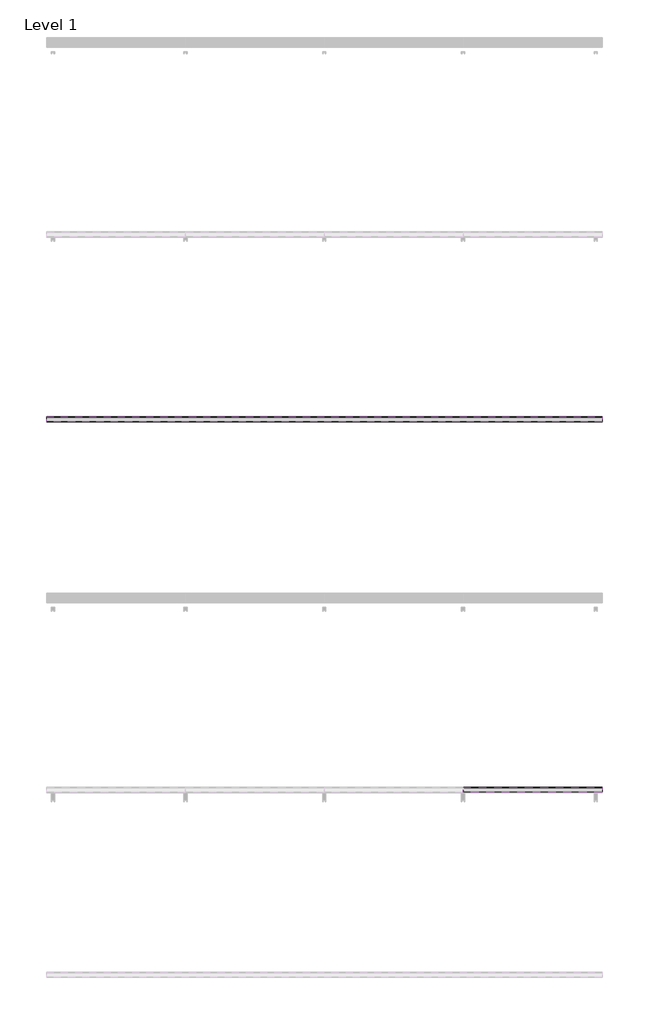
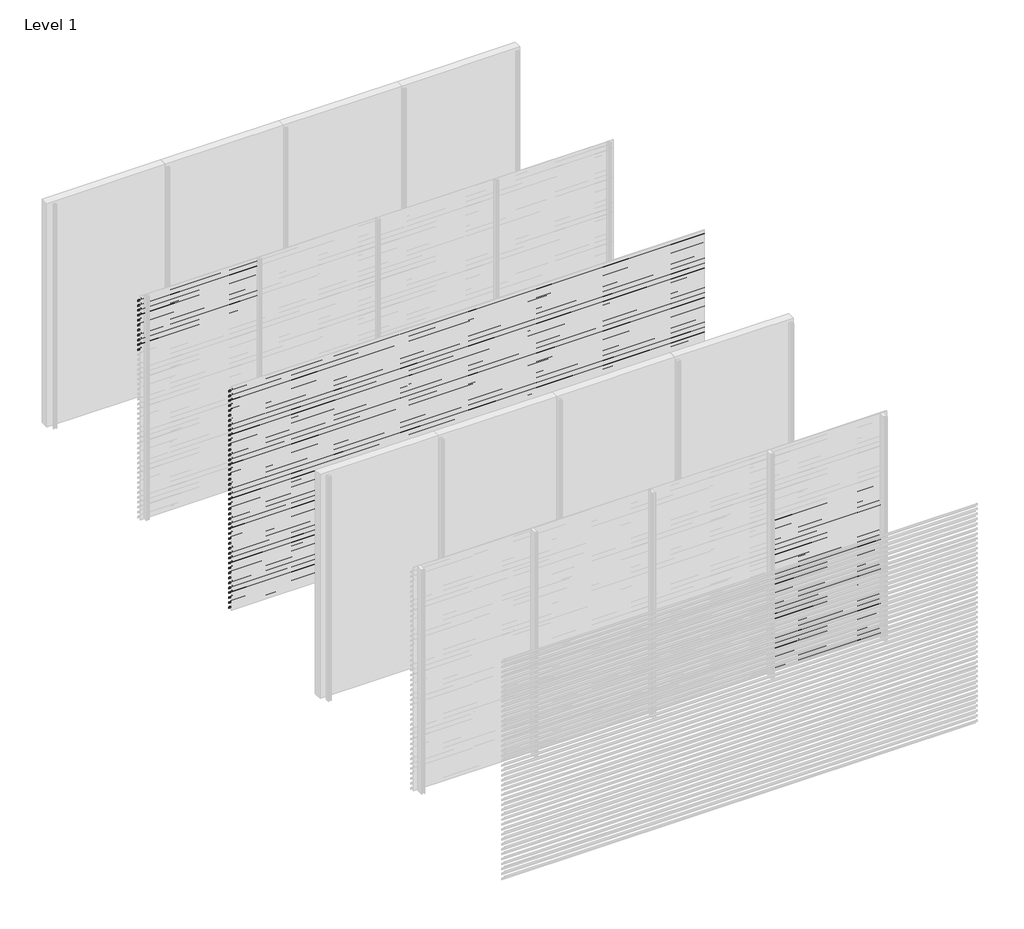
# One storey, part 18 of 25: 87 proxies.
"""IFC4 building model written with IfcOpenShell, lengths in millimetres."""

from ifc_helpers import new_model, si_unit, frame, origin, place, context, project, spatial, polyline, outline, extrude, element, save

model = new_model("IFC4")

# Units and contexts
model_context = context("Model", 3, world=origin())
ifc_project = project(units=[si_unit("LENGTHUNIT", "METRE", prefix="MILLI")], contexts=[model_context])

# Site, building, storey
site = spatial("IfcSite", under=ifc_project)
building = spatial("IfcBuilding", under=site)
storey = spatial("IfcBuildingStorey", under=building, Name="Level 1", Elevation=0.0)

# Proxies
placement = place(None, origin())
element("IfcBuildingElementProxy", 1, Name="Wall Sweeps", at=placement, inside=storey, context=model_context, shape_type="SweptSolid", body=[
    extrude(outline(polyline([(-11943.0, 2913.5), (-11943.0, 2893.5), (-11944.25, 2894.2216933), (-11944.25, 2912.7872415), (-11998.0, 2950.3158044), (-11998.0, 2970.0), (-11996.75, 2970.0), (-11996.75, 2951.0285629), (-11943.0, 2913.5)])), frame((0.0, 0.0, 0.0), z_axis=(1.0, 0.0, 0.0), x_axis=(0.0, 1.0, 0.0)), (0.0, 0.0, 1.0), 1500.0),
])
element("IfcBuildingElementProxy", 2, Name="Wall Sweeps", at=placement, inside=storey, context=model_context, shape_type="SweptSolid", body=[
    extrude(outline(polyline([(-11943.0, 2847.5), (-11943.0, 2827.5), (-11944.25, 2828.2216933), (-11944.25, 2846.7872415), (-11998.0, 2884.3158044), (-11998.0, 2904.0), (-11996.75, 2904.0), (-11996.75, 2885.0285629), (-11943.0, 2847.5)])), frame((0.0, 0.0, 0.0), z_axis=(1.0, 0.0, 0.0), x_axis=(0.0, 1.0, 0.0)), (0.0, 0.0, 1.0), 1500.0),
])
element("IfcBuildingElementProxy", 3, Name="Wall Sweeps", at=placement, inside=storey, context=model_context, shape_type="SweptSolid", body=[
    extrude(outline(polyline([(-11943.0, 2781.5), (-11943.0, 2761.5), (-11944.25, 2762.2216933), (-11944.25, 2780.7872415), (-11998.0, 2818.3158044), (-11998.0, 2838.0), (-11996.75, 2838.0), (-11996.75, 2819.0285629), (-11943.0, 2781.5)])), frame((0.0, 0.0, 0.0), z_axis=(1.0, 0.0, 0.0), x_axis=(0.0, 1.0, 0.0)), (0.0, 0.0, 1.0), 1500.0),
])
element("IfcBuildingElementProxy", 4, Name="Wall Sweeps", at=placement, inside=storey, context=model_context, shape_type="SweptSolid", body=[
    extrude(outline(polyline([(-11943.0, 2715.5), (-11943.0, 2695.5), (-11944.25, 2696.2216933), (-11944.25, 2714.7872415), (-11998.0, 2752.3158044), (-11998.0, 2772.0), (-11996.75, 2772.0), (-11996.75, 2753.0285629), (-11943.0, 2715.5)])), frame((0.0, 0.0, 0.0), z_axis=(1.0, 0.0, 0.0), x_axis=(0.0, 1.0, 0.0)), (0.0, 0.0, 1.0), 1500.0),
])
element("IfcBuildingElementProxy", 5, Name="Wall Sweeps", at=placement, inside=storey, context=model_context, shape_type="SweptSolid", body=[
    extrude(outline(polyline([(-11943.0, 2649.5), (-11943.0, 2629.5), (-11944.25, 2630.2216933), (-11944.25, 2648.7872415), (-11998.0, 2686.3158044), (-11998.0, 2706.0), (-11996.75, 2706.0), (-11996.75, 2687.0285629), (-11943.0, 2649.5)])), frame((0.0, 0.0, 0.0), z_axis=(1.0, 0.0, 0.0), x_axis=(0.0, 1.0, 0.0)), (0.0, 0.0, 1.0), 1500.0),
])
element("IfcBuildingElementProxy", 6, Name="Wall Sweeps", at=placement, inside=storey, context=model_context, shape_type="SweptSolid", body=[
    extrude(outline(polyline([(-11943.0, 2583.5), (-11943.0, 2563.5), (-11944.25, 2564.2216933), (-11944.25, 2582.7872415), (-11998.0, 2620.3158044), (-11998.0, 2640.0), (-11996.75, 2640.0), (-11996.75, 2621.0285629), (-11943.0, 2583.5)])), frame((0.0, 0.0, 0.0), z_axis=(1.0, 0.0, 0.0), x_axis=(0.0, 1.0, 0.0)), (0.0, 0.0, 1.0), 1500.0),
])
element("IfcBuildingElementProxy", 7, Name="Wall Sweeps", at=placement, inside=storey, context=model_context, shape_type="SweptSolid", body=[
    extrude(outline(polyline([(-11943.0, 2517.5), (-11943.0, 2497.5), (-11944.25, 2498.2216933), (-11944.25, 2516.7872415), (-11998.0, 2554.3158044), (-11998.0, 2574.0), (-11996.75, 2574.0), (-11996.75, 2555.0285629), (-11943.0, 2517.5)])), frame((0.0, 0.0, 0.0), z_axis=(1.0, 0.0, 0.0), x_axis=(0.0, 1.0, 0.0)), (0.0, 0.0, 1.0), 1500.0),
])
element("IfcBuildingElementProxy", 8, Name="Wall Sweeps", at=placement, inside=storey, context=model_context, shape_type="SweptSolid", body=[
    extrude(outline(polyline([(-11943.0, 2451.5), (-11943.0, 2431.5), (-11944.25, 2432.2216933), (-11944.25, 2450.7872415), (-11998.0, 2488.3158044), (-11998.0, 2508.0), (-11996.75, 2508.0), (-11996.75, 2489.0285629), (-11943.0, 2451.5)])), frame((0.0, 0.0, 0.0), z_axis=(1.0, 0.0, 0.0), x_axis=(0.0, 1.0, 0.0)), (0.0, 0.0, 1.0), 1500.0),
])
element("IfcBuildingElementProxy", 9, Name="Wall Sweeps", at=placement, inside=storey, context=model_context, shape_type="SweptSolid", body=[
    extrude(outline(polyline([(-11943.0, 2385.5), (-11943.0, 2365.5), (-11944.25, 2366.2216933), (-11944.25, 2384.7872415), (-11998.0, 2422.3158044), (-11998.0, 2442.0), (-11996.75, 2442.0), (-11996.75, 2423.0285629), (-11943.0, 2385.5)])), frame((0.0, 0.0, 0.0), z_axis=(1.0, 0.0, 0.0), x_axis=(0.0, 1.0, 0.0)), (0.0, 0.0, 1.0), 1500.0),
])
element("IfcBuildingElementProxy", 10, Name="Wall Sweeps", at=placement, inside=storey, context=model_context, shape_type="SweptSolid", body=[
    extrude(outline(polyline([(-11943.0, 2319.5), (-11943.0, 2299.5), (-11944.25, 2300.2216933), (-11944.25, 2318.7872415), (-11998.0, 2356.3158044), (-11998.0, 2376.0), (-11996.75, 2376.0), (-11996.75, 2357.0285629), (-11943.0, 2319.5)])), frame((0.0, 0.0, 0.0), z_axis=(1.0, 0.0, 0.0), x_axis=(0.0, 1.0, 0.0)), (0.0, 0.0, 1.0), 1500.0),
])
element("IfcBuildingElementProxy", 11, Name="Wall Sweeps", at=placement, inside=storey, context=model_context, shape_type="SweptSolid", body=[
    extrude(outline(polyline([(-11943.0, 2253.5), (-11943.0, 2233.5), (-11944.25, 2234.2216933), (-11944.25, 2252.7872415), (-11998.0, 2290.3158044), (-11998.0, 2310.0), (-11996.75, 2310.0), (-11996.75, 2291.0285629), (-11943.0, 2253.5)])), frame((0.0, 0.0, 0.0), z_axis=(1.0, 0.0, 0.0), x_axis=(0.0, 1.0, 0.0)), (0.0, 0.0, 1.0), 1500.0),
])
element("IfcBuildingElementProxy", 12, Name="Wall Sweeps", at=placement, inside=storey, context=model_context, shape_type="SweptSolid", body=[
    extrude(outline(polyline([(-13943.0, 2913.5), (-13943.0, 2893.5), (-13944.25, 2894.2216933), (-13944.25, 2912.7872415), (-13998.0, 2950.3158044), (-13998.0, 2970.0), (-13996.75, 2970.0), (-13996.75, 2951.0285629), (-13943.0, 2913.5)])), frame((0.0, 0.0, 0.0), z_axis=(1.0, 0.0, 0.0), x_axis=(0.0, 1.0, 0.0)), (0.0, 0.0, 1.0), 6000.0),
])
element("IfcBuildingElementProxy", 13, Name="Wall Sweeps", at=placement, inside=storey, context=model_context, shape_type="SweptSolid", body=[
    extrude(outline(polyline([(-13943.0, 2847.5), (-13943.0, 2827.5), (-13944.25, 2828.2216933), (-13944.25, 2846.7872415), (-13998.0, 2884.3158044), (-13998.0, 2904.0), (-13996.75, 2904.0), (-13996.75, 2885.0285629), (-13943.0, 2847.5)])), frame((0.0, 0.0, 0.0), z_axis=(1.0, 0.0, 0.0), x_axis=(0.0, 1.0, 0.0)), (0.0, 0.0, 1.0), 6000.0),
])
element("IfcBuildingElementProxy", 14, Name="Wall Sweeps", at=placement, inside=storey, context=model_context, shape_type="SweptSolid", body=[
    extrude(outline(polyline([(-13943.0, 2781.5), (-13943.0, 2761.5), (-13944.25, 2762.2216933), (-13944.25, 2780.7872415), (-13998.0, 2818.3158044), (-13998.0, 2838.0), (-13996.75, 2838.0), (-13996.75, 2819.0285629), (-13943.0, 2781.5)])), frame((0.0, 0.0, 0.0), z_axis=(1.0, 0.0, 0.0), x_axis=(0.0, 1.0, 0.0)), (0.0, 0.0, 1.0), 6000.0),
])
element("IfcBuildingElementProxy", 15, Name="Wall Sweeps", at=placement, inside=storey, context=model_context, shape_type="SweptSolid", body=[
    extrude(outline(polyline([(-13943.0, 2715.5), (-13943.0, 2695.5), (-13944.25, 2696.2216933), (-13944.25, 2714.7872415), (-13998.0, 2752.3158044), (-13998.0, 2772.0), (-13996.75, 2772.0), (-13996.75, 2753.0285629), (-13943.0, 2715.5)])), frame((0.0, 0.0, 0.0), z_axis=(1.0, 0.0, 0.0), x_axis=(0.0, 1.0, 0.0)), (0.0, 0.0, 1.0), 6000.0),
])
element("IfcBuildingElementProxy", 16, Name="Wall Sweeps", at=placement, inside=storey, context=model_context, shape_type="SweptSolid", body=[
    extrude(outline(polyline([(-13943.0, 2649.5), (-13943.0, 2629.5), (-13944.25, 2630.2216933), (-13944.25, 2648.7872415), (-13998.0, 2686.3158044), (-13998.0, 2706.0), (-13996.75, 2706.0), (-13996.75, 2687.0285629), (-13943.0, 2649.5)])), frame((0.0, 0.0, 0.0), z_axis=(1.0, 0.0, 0.0), x_axis=(0.0, 1.0, 0.0)), (0.0, 0.0, 1.0), 6000.0),
])
element("IfcBuildingElementProxy", 17, Name="Wall Sweeps", at=placement, inside=storey, context=model_context, shape_type="SweptSolid", body=[
    extrude(outline(polyline([(-13943.0, 2583.5), (-13943.0, 2563.5), (-13944.25, 2564.2216933), (-13944.25, 2582.7872415), (-13998.0, 2620.3158044), (-13998.0, 2640.0), (-13996.75, 2640.0), (-13996.75, 2621.0285629), (-13943.0, 2583.5)])), frame((0.0, 0.0, 0.0), z_axis=(1.0, 0.0, 0.0), x_axis=(0.0, 1.0, 0.0)), (0.0, 0.0, 1.0), 6000.0),
])
element("IfcBuildingElementProxy", 18, Name="Wall Sweeps", at=placement, inside=storey, context=model_context, shape_type="SweptSolid", body=[
    extrude(outline(polyline([(-13943.0, 2517.5), (-13943.0, 2497.5), (-13944.25, 2498.2216933), (-13944.25, 2516.7872415), (-13998.0, 2554.3158044), (-13998.0, 2574.0), (-13996.75, 2574.0), (-13996.75, 2555.0285629), (-13943.0, 2517.5)])), frame((0.0, 0.0, 0.0), z_axis=(1.0, 0.0, 0.0), x_axis=(0.0, 1.0, 0.0)), (0.0, 0.0, 1.0), 6000.0),
])
element("IfcBuildingElementProxy", 19, Name="Wall Sweeps", at=placement, inside=storey, context=model_context, shape_type="SweptSolid", body=[
    extrude(outline(polyline([(-13943.0, 2451.5), (-13943.0, 2431.5), (-13944.25, 2432.2216933), (-13944.25, 2450.7872415), (-13998.0, 2488.3158044), (-13998.0, 2508.0), (-13996.75, 2508.0), (-13996.75, 2489.0285629), (-13943.0, 2451.5)])), frame((0.0, 0.0, 0.0), z_axis=(1.0, 0.0, 0.0), x_axis=(0.0, 1.0, 0.0)), (0.0, 0.0, 1.0), 6000.0),
])
element("IfcBuildingElementProxy", 20, Name="Wall Sweeps", at=placement, inside=storey, context=model_context, shape_type="SweptSolid", body=[
    extrude(outline(polyline([(-13943.0, 2385.5), (-13943.0, 2365.5), (-13944.25, 2366.2216933), (-13944.25, 2384.7872415), (-13998.0, 2422.3158044), (-13998.0, 2442.0), (-13996.75, 2442.0), (-13996.75, 2423.0285629), (-13943.0, 2385.5)])), frame((0.0, 0.0, 0.0), z_axis=(1.0, 0.0, 0.0), x_axis=(0.0, 1.0, 0.0)), (0.0, 0.0, 1.0), 6000.0),
])
element("IfcBuildingElementProxy", 21, Name="Wall Sweeps", at=placement, inside=storey, context=model_context, shape_type="SweptSolid", body=[
    extrude(outline(polyline([(-13943.0, 2319.5), (-13943.0, 2299.5), (-13944.25, 2300.2216933), (-13944.25, 2318.7872415), (-13998.0, 2356.3158044), (-13998.0, 2376.0), (-13996.75, 2376.0), (-13996.75, 2357.0285629), (-13943.0, 2319.5)])), frame((0.0, 0.0, 0.0), z_axis=(1.0, 0.0, 0.0), x_axis=(0.0, 1.0, 0.0)), (0.0, 0.0, 1.0), 6000.0),
])
element("IfcBuildingElementProxy", 22, Name="Wall Sweeps", at=placement, inside=storey, context=model_context, shape_type="SweptSolid", body=[
    extrude(outline(polyline([(-13943.0, 2253.5), (-13943.0, 2233.5), (-13944.25, 2234.2216933), (-13944.25, 2252.7872415), (-13998.0, 2290.3158044), (-13998.0, 2310.0), (-13996.75, 2310.0), (-13996.75, 2291.0285629), (-13943.0, 2253.5)])), frame((0.0, 0.0, 0.0), z_axis=(1.0, 0.0, 0.0), x_axis=(0.0, 1.0, 0.0)), (0.0, 0.0, 1.0), 6000.0),
])
element("IfcBuildingElementProxy", 23, Name="Wall Sweeps", at=placement, inside=storey, context=model_context, shape_type="SweptSolid", body=[
    extrude(outline(polyline([(-13943.0, 2187.5), (-13943.0, 2167.5), (-13944.25, 2168.2216933), (-13944.25, 2186.7872415), (-13998.0, 2224.3158044), (-13998.0, 2244.0), (-13996.75, 2244.0), (-13996.75, 2225.0285629), (-13943.0, 2187.5)])), frame((0.0, 0.0, 0.0), z_axis=(1.0, 0.0, 0.0), x_axis=(0.0, 1.0, 0.0)), (0.0, 0.0, 1.0), 6000.0),
])
element("IfcBuildingElementProxy", 24, Name="Wall Sweeps", at=placement, inside=storey, context=model_context, shape_type="SweptSolid", body=[
    extrude(outline(polyline([(-13943.0, 2121.5), (-13943.0, 2101.5), (-13944.25, 2102.2216933), (-13944.25, 2120.7872415), (-13998.0, 2158.3158044), (-13998.0, 2178.0), (-13996.75, 2178.0), (-13996.75, 2159.0285629), (-13943.0, 2121.5)])), frame((0.0, 0.0, 0.0), z_axis=(1.0, 0.0, 0.0), x_axis=(0.0, 1.0, 0.0)), (0.0, 0.0, 1.0), 6000.0),
])
element("IfcBuildingElementProxy", 25, Name="Wall Sweeps", at=placement, inside=storey, context=model_context, shape_type="SweptSolid", body=[
    extrude(outline(polyline([(-13943.0, 2055.5), (-13943.0, 2035.5), (-13944.25, 2036.2216933), (-13944.25, 2054.7872415), (-13998.0, 2092.3158044), (-13998.0, 2112.0), (-13996.75, 2112.0), (-13996.75, 2093.0285629), (-13943.0, 2055.5)])), frame((0.0, 0.0, 0.0), z_axis=(1.0, 0.0, 0.0), x_axis=(0.0, 1.0, 0.0)), (0.0, 0.0, 1.0), 6000.0),
])
element("IfcBuildingElementProxy", 26, Name="Wall Sweeps", at=placement, inside=storey, context=model_context, shape_type="SweptSolid", body=[
    extrude(outline(polyline([(-13943.0, 1989.5), (-13943.0, 1969.5), (-13944.25, 1970.2216933), (-13944.25, 1988.7872415), (-13998.0, 2026.3158044), (-13998.0, 2046.0), (-13996.75, 2046.0), (-13996.75, 2027.0285629), (-13943.0, 1989.5)])), frame((0.0, 0.0, 0.0), z_axis=(1.0, 0.0, 0.0), x_axis=(0.0, 1.0, 0.0)), (0.0, 0.0, 1.0), 6000.0),
])
element("IfcBuildingElementProxy", 27, Name="Wall Sweeps", at=placement, inside=storey, context=model_context, shape_type="SweptSolid", body=[
    extrude(outline(polyline([(-13943.0, 1923.5), (-13943.0, 1903.5), (-13944.25, 1904.2216933), (-13944.25, 1922.7872415), (-13998.0, 1960.3158044), (-13998.0, 1980.0), (-13996.75, 1980.0), (-13996.75, 1961.0285629), (-13943.0, 1923.5)])), frame((0.0, 0.0, 0.0), z_axis=(1.0, 0.0, 0.0), x_axis=(0.0, 1.0, 0.0)), (0.0, 0.0, 1.0), 6000.0),
])
element("IfcBuildingElementProxy", 28, Name="Wall Sweeps", at=placement, inside=storey, context=model_context, shape_type="SweptSolid", body=[
    extrude(outline(polyline([(-13943.0, 1857.5), (-13943.0, 1837.5), (-13944.25, 1838.2216933), (-13944.25, 1856.7872415), (-13998.0, 1894.3158044), (-13998.0, 1914.0), (-13996.75, 1914.0), (-13996.75, 1895.0285629), (-13943.0, 1857.5)])), frame((0.0, 0.0, 0.0), z_axis=(1.0, 0.0, 0.0), x_axis=(0.0, 1.0, 0.0)), (0.0, 0.0, 1.0), 6000.0),
])
element("IfcBuildingElementProxy", 29, Name="Wall Sweeps", at=placement, inside=storey, context=model_context, shape_type="SweptSolid", body=[
    extrude(outline(polyline([(-13943.0, 1791.5), (-13943.0, 1771.5), (-13944.25, 1772.2216933), (-13944.25, 1790.7872415), (-13998.0, 1828.3158044), (-13998.0, 1848.0), (-13996.75, 1848.0), (-13996.75, 1829.0285629), (-13943.0, 1791.5)])), frame((0.0, 0.0, 0.0), z_axis=(1.0, 0.0, 0.0), x_axis=(0.0, 1.0, 0.0)), (0.0, 0.0, 1.0), 6000.0),
])
element("IfcBuildingElementProxy", 30, Name="Wall Sweeps", at=placement, inside=storey, context=model_context, shape_type="SweptSolid", body=[
    extrude(outline(polyline([(-13943.0, 1725.5), (-13943.0, 1705.5), (-13944.25, 1706.2216933), (-13944.25, 1724.7872415), (-13998.0, 1762.3158044), (-13998.0, 1782.0), (-13996.75, 1782.0), (-13996.75, 1763.0285629), (-13943.0, 1725.5)])), frame((0.0, 0.0, 0.0), z_axis=(1.0, 0.0, 0.0), x_axis=(0.0, 1.0, 0.0)), (0.0, 0.0, 1.0), 6000.0),
])
element("IfcBuildingElementProxy", 31, Name="Wall Sweeps", at=placement, inside=storey, context=model_context, shape_type="SweptSolid", body=[
    extrude(outline(polyline([(-13943.0, 1659.5), (-13943.0, 1639.5), (-13944.25, 1640.2216933), (-13944.25, 1658.7872415), (-13998.0, 1696.3158044), (-13998.0, 1716.0), (-13996.75, 1716.0), (-13996.75, 1697.0285629), (-13943.0, 1659.5)])), frame((0.0, 0.0, 0.0), z_axis=(1.0, 0.0, 0.0), x_axis=(0.0, 1.0, 0.0)), (0.0, 0.0, 1.0), 6000.0),
])
element("IfcBuildingElementProxy", 32, Name="Wall Sweeps", at=placement, inside=storey, context=model_context, shape_type="SweptSolid", body=[
    extrude(outline(polyline([(-13943.0, 1593.5), (-13943.0, 1573.5), (-13944.25, 1574.2216933), (-13944.25, 1592.7872415), (-13998.0, 1630.3158044), (-13998.0, 1650.0), (-13996.75, 1650.0), (-13996.75, 1631.0285629), (-13943.0, 1593.5)])), frame((0.0, 0.0, 0.0), z_axis=(1.0, 0.0, 0.0), x_axis=(0.0, 1.0, 0.0)), (0.0, 0.0, 1.0), 6000.0),
])
element("IfcBuildingElementProxy", 33, Name="Wall Sweeps", at=placement, inside=storey, context=model_context, shape_type="SweptSolid", body=[
    extrude(outline(polyline([(-13943.0, 1527.5), (-13943.0, 1507.5), (-13944.25, 1508.2216933), (-13944.25, 1526.7872415), (-13998.0, 1564.3158044), (-13998.0, 1584.0), (-13996.75, 1584.0), (-13996.75, 1565.0285629), (-13943.0, 1527.5)])), frame((0.0, 0.0, 0.0), z_axis=(1.0, 0.0, 0.0), x_axis=(0.0, 1.0, 0.0)), (0.0, 0.0, 1.0), 6000.0),
])
element("IfcBuildingElementProxy", 34, Name="Wall Sweeps", at=placement, inside=storey, context=model_context, shape_type="SweptSolid", body=[
    extrude(outline(polyline([(-13943.0, 1461.5), (-13943.0, 1441.5), (-13944.25, 1442.2216933), (-13944.25, 1460.7872415), (-13998.0, 1498.3158044), (-13998.0, 1518.0), (-13996.75, 1518.0), (-13996.75, 1499.0285629), (-13943.0, 1461.5)])), frame((0.0, 0.0, 0.0), z_axis=(1.0, 0.0, 0.0), x_axis=(0.0, 1.0, 0.0)), (0.0, 0.0, 1.0), 6000.0),
])
element("IfcBuildingElementProxy", 35, Name="Wall Sweeps", at=placement, inside=storey, context=model_context, shape_type="SweptSolid", body=[
    extrude(outline(polyline([(-13943.0, 1395.5), (-13943.0, 1375.5), (-13944.25, 1376.2216933), (-13944.25, 1394.7872415), (-13998.0, 1432.3158044), (-13998.0, 1452.0), (-13996.75, 1452.0), (-13996.75, 1433.0285629), (-13943.0, 1395.5)])), frame((0.0, 0.0, 0.0), z_axis=(1.0, 0.0, 0.0), x_axis=(0.0, 1.0, 0.0)), (0.0, 0.0, 1.0), 6000.0),
])
element("IfcBuildingElementProxy", 36, Name="Wall Sweeps", at=placement, inside=storey, context=model_context, shape_type="SweptSolid", body=[
    extrude(outline(polyline([(-13943.0, 1329.5), (-13943.0, 1309.5), (-13944.25, 1310.2216933), (-13944.25, 1328.7872415), (-13998.0, 1366.3158044), (-13998.0, 1386.0), (-13996.75, 1386.0), (-13996.75, 1367.0285629), (-13943.0, 1329.5)])), frame((0.0, 0.0, 0.0), z_axis=(1.0, 0.0, 0.0), x_axis=(0.0, 1.0, 0.0)), (0.0, 0.0, 1.0), 6000.0),
])
element("IfcBuildingElementProxy", 37, Name="Wall Sweeps", at=placement, inside=storey, context=model_context, shape_type="SweptSolid", body=[
    extrude(outline(polyline([(-13943.0, 1263.5), (-13943.0, 1243.5), (-13944.25, 1244.2216933), (-13944.25, 1262.7872415), (-13998.0, 1300.3158044), (-13998.0, 1320.0), (-13996.75, 1320.0), (-13996.75, 1301.0285629), (-13943.0, 1263.5)])), frame((0.0, 0.0, 0.0), z_axis=(1.0, 0.0, 0.0), x_axis=(0.0, 1.0, 0.0)), (0.0, 0.0, 1.0), 6000.0),
])
element("IfcBuildingElementProxy", 38, Name="Wall Sweeps", at=placement, inside=storey, context=model_context, shape_type="SweptSolid", body=[
    extrude(outline(polyline([(-13943.0, 1197.5), (-13943.0, 1177.5), (-13944.25, 1178.2216933), (-13944.25, 1196.7872415), (-13998.0, 1234.3158044), (-13998.0, 1254.0), (-13996.75, 1254.0), (-13996.75, 1235.0285629), (-13943.0, 1197.5)])), frame((0.0, 0.0, 0.0), z_axis=(1.0, 0.0, 0.0), x_axis=(0.0, 1.0, 0.0)), (0.0, 0.0, 1.0), 6000.0),
])
element("IfcBuildingElementProxy", 39, Name="Wall Sweeps", at=placement, inside=storey, context=model_context, shape_type="SweptSolid", body=[
    extrude(outline(polyline([(-13943.0, 1131.5), (-13943.0, 1111.5), (-13944.25, 1112.2216933), (-13944.25, 1130.7872415), (-13998.0, 1168.3158044), (-13998.0, 1188.0), (-13996.75, 1188.0), (-13996.75, 1169.0285629), (-13943.0, 1131.5)])), frame((0.0, 0.0, 0.0), z_axis=(1.0, 0.0, 0.0), x_axis=(0.0, 1.0, 0.0)), (0.0, 0.0, 1.0), 6000.0),
])
element("IfcBuildingElementProxy", 40, Name="Wall Sweeps", at=placement, inside=storey, context=model_context, shape_type="SweptSolid", body=[
    extrude(outline(polyline([(-13943.0, 1065.5), (-13943.0, 1045.5), (-13944.25, 1046.2216933), (-13944.25, 1064.7872415), (-13998.0, 1102.3158044), (-13998.0, 1122.0), (-13996.75, 1122.0), (-13996.75, 1103.0285629), (-13943.0, 1065.5)])), frame((0.0, 0.0, 0.0), z_axis=(1.0, 0.0, 0.0), x_axis=(0.0, 1.0, 0.0)), (0.0, 0.0, 1.0), 6000.0),
])
element("IfcBuildingElementProxy", 41, Name="Wall Sweeps", at=placement, inside=storey, context=model_context, shape_type="SweptSolid", body=[
    extrude(outline(polyline([(-13943.0, 999.5), (-13943.0, 979.5), (-13944.25, 980.2216933), (-13944.25, 998.7872415), (-13998.0, 1036.3158044), (-13998.0, 1056.0), (-13996.75, 1056.0), (-13996.75, 1037.0285629), (-13943.0, 999.5)])), frame((0.0, 0.0, 0.0), z_axis=(1.0, 0.0, 0.0), x_axis=(0.0, 1.0, 0.0)), (0.0, 0.0, 1.0), 6000.0),
])
element("IfcBuildingElementProxy", 42, Name="Wall Sweeps", at=placement, inside=storey, context=model_context, shape_type="SweptSolid", body=[
    extrude(outline(polyline([(-13943.0, 933.5), (-13943.0, 913.5), (-13944.25, 914.2216933), (-13944.25, 932.7872415), (-13998.0, 970.3158044), (-13998.0, 990.0), (-13996.75, 990.0), (-13996.75, 971.0285629), (-13943.0, 933.5)])), frame((0.0, 0.0, 0.0), z_axis=(1.0, 0.0, 0.0), x_axis=(0.0, 1.0, 0.0)), (0.0, 0.0, 1.0), 6000.0),
])
element("IfcBuildingElementProxy", 43, Name="Wall Sweeps", at=placement, inside=storey, context=model_context, shape_type="SweptSolid", body=[
    extrude(outline(polyline([(-13943.0, 867.5), (-13943.0, 847.5), (-13944.25, 848.2216933), (-13944.25, 866.7872415), (-13998.0, 904.3158044), (-13998.0, 924.0), (-13996.75, 924.0), (-13996.75, 905.0285629), (-13943.0, 867.5)])), frame((0.0, 0.0, 0.0), z_axis=(1.0, 0.0, 0.0), x_axis=(0.0, 1.0, 0.0)), (0.0, 0.0, 1.0), 6000.0),
])
element("IfcBuildingElementProxy", 44, Name="Wall Sweeps", at=placement, inside=storey, context=model_context, shape_type="SweptSolid", body=[
    extrude(outline(polyline([(-13943.0, 801.5), (-13943.0, 781.5), (-13944.25, 782.2216933), (-13944.25, 800.7872415), (-13998.0, 838.3158044), (-13998.0, 858.0), (-13996.75, 858.0), (-13996.75, 839.0285629), (-13943.0, 801.5)])), frame((0.0, 0.0, 0.0), z_axis=(1.0, 0.0, 0.0), x_axis=(0.0, 1.0, 0.0)), (0.0, 0.0, 1.0), 6000.0),
])
element("IfcBuildingElementProxy", 45, Name="Wall Sweeps", at=placement, inside=storey, context=model_context, shape_type="SweptSolid", body=[
    extrude(outline(polyline([(-13943.0, 735.5), (-13943.0, 715.5), (-13944.25, 716.2216933), (-13944.25, 734.7872415), (-13998.0, 772.3158044), (-13998.0, 792.0), (-13996.75, 792.0), (-13996.75, 773.0285629), (-13943.0, 735.5)])), frame((0.0, 0.0, 0.0), z_axis=(1.0, 0.0, 0.0), x_axis=(0.0, 1.0, 0.0)), (0.0, 0.0, 1.0), 6000.0),
])
element("IfcBuildingElementProxy", 46, Name="Wall Sweeps", at=placement, inside=storey, context=model_context, shape_type="SweptSolid", body=[
    extrude(outline(polyline([(-13943.0, 669.5), (-13943.0, 649.5), (-13944.25, 650.2216933), (-13944.25, 668.7872415), (-13998.0, 706.3158044), (-13998.0, 726.0), (-13996.75, 726.0), (-13996.75, 707.0285629), (-13943.0, 669.5)])), frame((0.0, 0.0, 0.0), z_axis=(1.0, 0.0, 0.0), x_axis=(0.0, 1.0, 0.0)), (0.0, 0.0, 1.0), 6000.0),
])
element("IfcBuildingElementProxy", 47, Name="Wall Sweeps", at=placement, inside=storey, context=model_context, shape_type="SweptSolid", body=[
    extrude(outline(polyline([(-13943.0, 603.5), (-13943.0, 583.5), (-13944.25, 584.2216933), (-13944.25, 602.7872415), (-13998.0, 640.3158044), (-13998.0, 660.0), (-13996.75, 660.0), (-13996.75, 641.0285629), (-13943.0, 603.5)])), frame((0.0, 0.0, 0.0), z_axis=(1.0, 0.0, 0.0), x_axis=(0.0, 1.0, 0.0)), (0.0, 0.0, 1.0), 6000.0),
])
element("IfcBuildingElementProxy", 48, Name="Wall Sweeps", at=placement, inside=storey, context=model_context, shape_type="SweptSolid", body=[
    extrude(outline(polyline([(-13943.0, 537.5), (-13943.0, 517.5), (-13944.25, 518.2216933), (-13944.25, 536.7872415), (-13998.0, 574.3158044), (-13998.0, 594.0), (-13996.75, 594.0), (-13996.75, 575.0285629), (-13943.0, 537.5)])), frame((0.0, 0.0, 0.0), z_axis=(1.0, 0.0, 0.0), x_axis=(0.0, 1.0, 0.0)), (0.0, 0.0, 1.0), 6000.0),
])
element("IfcBuildingElementProxy", 49, Name="Wall Sweeps", at=placement, inside=storey, context=model_context, shape_type="SweptSolid", body=[
    extrude(outline(polyline([(-13943.0, 471.5), (-13943.0, 451.5), (-13944.25, 452.2216933), (-13944.25, 470.7872415), (-13998.0, 508.3158044), (-13998.0, 528.0), (-13996.75, 528.0), (-13996.75, 509.0285629), (-13943.0, 471.5)])), frame((0.0, 0.0, 0.0), z_axis=(1.0, 0.0, 0.0), x_axis=(0.0, 1.0, 0.0)), (0.0, 0.0, 1.0), 6000.0),
])
element("IfcBuildingElementProxy", 50, Name="Wall Sweeps", at=placement, inside=storey, context=model_context, shape_type="SweptSolid", body=[
    extrude(outline(polyline([(-13943.0, 405.5), (-13943.0, 385.5), (-13944.25, 386.2216933), (-13944.25, 404.7872415), (-13998.0, 442.3158044), (-13998.0, 462.0), (-13996.75, 462.0), (-13996.75, 443.0285629), (-13943.0, 405.5)])), frame((0.0, 0.0, 0.0), z_axis=(1.0, 0.0, 0.0), x_axis=(0.0, 1.0, 0.0)), (0.0, 0.0, 1.0), 6000.0),
])
element("IfcBuildingElementProxy", 51, Name="Wall Sweeps", at=placement, inside=storey, context=model_context, shape_type="SweptSolid", body=[
    extrude(outline(polyline([(-13943.0, 339.5), (-13943.0, 319.5), (-13944.25, 320.2216933), (-13944.25, 338.7872415), (-13998.0, 376.3158044), (-13998.0, 396.0), (-13996.75, 396.0), (-13996.75, 377.0285629), (-13943.0, 339.5)])), frame((0.0, 0.0, 0.0), z_axis=(1.0, 0.0, 0.0), x_axis=(0.0, 1.0, 0.0)), (0.0, 0.0, 1.0), 6000.0),
])
element("IfcBuildingElementProxy", 52, Name="Wall Sweeps", at=placement, inside=storey, context=model_context, shape_type="SweptSolid", body=[
    extrude(outline(polyline([(-13943.0, 273.5), (-13943.0, 253.5), (-13944.25, 254.2216933), (-13944.25, 272.7872415), (-13998.0, 310.3158044), (-13998.0, 330.0), (-13996.75, 330.0), (-13996.75, 311.0285629), (-13943.0, 273.5)])), frame((0.0, 0.0, 0.0), z_axis=(1.0, 0.0, 0.0), x_axis=(0.0, 1.0, 0.0)), (0.0, 0.0, 1.0), 6000.0),
])
element("IfcBuildingElementProxy", 53, Name="Wall Sweeps", at=placement, inside=storey, context=model_context, shape_type="SweptSolid", body=[
    extrude(outline(polyline([(-13943.0, 207.5), (-13943.0, 187.5), (-13944.25, 188.2216933), (-13944.25, 206.7872415), (-13998.0, 244.3158044), (-13998.0, 264.0), (-13996.75, 264.0), (-13996.75, 245.0285629), (-13943.0, 207.5)])), frame((0.0, 0.0, 0.0), z_axis=(1.0, 0.0, 0.0), x_axis=(0.0, 1.0, 0.0)), (0.0, 0.0, 1.0), 6000.0),
])
element("IfcBuildingElementProxy", 54, Name="Wall Sweeps", at=placement, inside=storey, context=model_context, shape_type="SweptSolid", body=[
    extrude(outline(polyline([(-13943.0, 141.5), (-13943.0, 121.5), (-13944.25, 122.2216933), (-13944.25, 140.7872415), (-13998.0, 178.3158044), (-13998.0, 198.0), (-13996.75, 198.0), (-13996.75, 179.0285629), (-13943.0, 141.5)])), frame((0.0, 0.0, 0.0), z_axis=(1.0, 0.0, 0.0), x_axis=(0.0, 1.0, 0.0)), (0.0, 0.0, 1.0), 6000.0),
])
element("IfcBuildingElementProxy", 55, Name="Wall Sweeps", at=placement, inside=storey, context=model_context, shape_type="SweptSolid", body=[
    extrude(outline(polyline([(-13943.0, 75.5), (-13943.0, 55.5), (-13944.25, 56.2216933), (-13944.25, 74.7872415), (-13998.0, 112.3158044), (-13998.0, 132.0), (-13996.75, 132.0), (-13996.75, 113.0285629), (-13943.0, 75.5)])), frame((0.0, 0.0, 0.0), z_axis=(1.0, 0.0, 0.0), x_axis=(0.0, 1.0, 0.0)), (0.0, 0.0, 1.0), 6000.0),
])
element("IfcBuildingElementProxy", 56, Name="Wall Sweeps", at=placement, inside=storey, context=model_context, shape_type="SweptSolid", body=[
    extrude(outline(polyline([(-13943.0, 9.5), (-13943.0, -10.5), (-13944.25, -9.7783067), (-13944.25, 8.7872415), (-13998.0, 46.3158044), (-13998.0, 66.0), (-13996.75, 66.0), (-13996.75, 47.0285629), (-13943.0, 9.5)])), frame((0.0, 0.0, 0.0), z_axis=(1.0, 0.0, 0.0), x_axis=(0.0, 1.0, 0.0)), (0.0, 0.0, 1.0), 6000.0),
])
element("IfcBuildingElementProxy", 57, Name="Wall Sweeps", at=placement, inside=storey, context=model_context, shape_type="SweptSolid", body=[
    extrude(outline(polyline([(-17943.0, 1989.5), (-17943.0, 1969.5), (-17944.25, 1970.2216933), (-17944.25, 1988.7872415), (-17998.0, 2026.3158044), (-17998.0, 2046.0), (-17996.75, 2046.0), (-17996.75, 2027.0285629), (-17943.0, 1989.5)])), frame((4500.0, 0.0, 0.0), z_axis=(1.0, 0.0, 0.0), x_axis=(0.0, 1.0, 0.0)), (0.0, 0.0, 1.0), 1500.0),
])
element("IfcBuildingElementProxy", 58, Name="Wall Sweeps", at=placement, inside=storey, context=model_context, shape_type="SweptSolid", body=[
    extrude(outline(polyline([(-17943.0, 1923.5), (-17943.0, 1903.5), (-17944.25, 1904.2216933), (-17944.25, 1922.7872415), (-17998.0, 1960.3158044), (-17998.0, 1980.0), (-17996.75, 1980.0), (-17996.75, 1961.0285629), (-17943.0, 1923.5)])), frame((4500.0, 0.0, 0.0), z_axis=(1.0, 0.0, 0.0), x_axis=(0.0, 1.0, 0.0)), (0.0, 0.0, 1.0), 1500.0),
])
element("IfcBuildingElementProxy", 59, Name="Wall Sweeps", at=placement, inside=storey, context=model_context, shape_type="SweptSolid", body=[
    extrude(outline(polyline([(-17943.0, 1857.5), (-17943.0, 1837.5), (-17944.25, 1838.2216933), (-17944.25, 1856.7872415), (-17998.0, 1894.3158044), (-17998.0, 1914.0), (-17996.75, 1914.0), (-17996.75, 1895.0285629), (-17943.0, 1857.5)])), frame((4500.0, 0.0, 0.0), z_axis=(1.0, 0.0, 0.0), x_axis=(0.0, 1.0, 0.0)), (0.0, 0.0, 1.0), 1500.0),
])
element("IfcBuildingElementProxy", 60, Name="Wall Sweeps", at=placement, inside=storey, context=model_context, shape_type="SweptSolid", body=[
    extrude(outline(polyline([(-17943.0, 1791.5), (-17943.0, 1771.5), (-17944.25, 1772.2216933), (-17944.25, 1790.7872415), (-17998.0, 1828.3158044), (-17998.0, 1848.0), (-17996.75, 1848.0), (-17996.75, 1829.0285629), (-17943.0, 1791.5)])), frame((4500.0, 0.0, 0.0), z_axis=(1.0, 0.0, 0.0), x_axis=(0.0, 1.0, 0.0)), (0.0, 0.0, 1.0), 1500.0),
])
element("IfcBuildingElementProxy", 61, Name="Wall Sweeps", at=placement, inside=storey, context=model_context, shape_type="SweptSolid", body=[
    extrude(outline(polyline([(-17943.0, 1725.5), (-17943.0, 1705.5), (-17944.25, 1706.2216933), (-17944.25, 1724.7872415), (-17998.0, 1762.3158044), (-17998.0, 1782.0), (-17996.75, 1782.0), (-17996.75, 1763.0285629), (-17943.0, 1725.5)])), frame((4500.0, 0.0, 0.0), z_axis=(1.0, 0.0, 0.0), x_axis=(0.0, 1.0, 0.0)), (0.0, 0.0, 1.0), 1500.0),
])
element("IfcBuildingElementProxy", 62, Name="Wall Sweeps", at=placement, inside=storey, context=model_context, shape_type="SweptSolid", body=[
    extrude(outline(polyline([(-17943.0, 1659.5), (-17943.0, 1639.5), (-17944.25, 1640.2216933), (-17944.25, 1658.7872415), (-17998.0, 1696.3158044), (-17998.0, 1716.0), (-17996.75, 1716.0), (-17996.75, 1697.0285629), (-17943.0, 1659.5)])), frame((4500.0, 0.0, 0.0), z_axis=(1.0, 0.0, 0.0), x_axis=(0.0, 1.0, 0.0)), (0.0, 0.0, 1.0), 1500.0),
])
element("IfcBuildingElementProxy", 63, Name="Wall Sweeps", at=placement, inside=storey, context=model_context, shape_type="SweptSolid", body=[
    extrude(outline(polyline([(-17943.0, 1593.5), (-17943.0, 1573.5), (-17944.25, 1574.2216933), (-17944.25, 1592.7872415), (-17998.0, 1630.3158044), (-17998.0, 1650.0), (-17996.75, 1650.0), (-17996.75, 1631.0285629), (-17943.0, 1593.5)])), frame((4500.0, 0.0, 0.0), z_axis=(1.0, 0.0, 0.0), x_axis=(0.0, 1.0, 0.0)), (0.0, 0.0, 1.0), 1500.0),
])
element("IfcBuildingElementProxy", 64, Name="Wall Sweeps", at=placement, inside=storey, context=model_context, shape_type="SweptSolid", body=[
    extrude(outline(polyline([(-17943.0, 1527.5), (-17943.0, 1507.5), (-17944.25, 1508.2216933), (-17944.25, 1526.7872415), (-17998.0, 1564.3158044), (-17998.0, 1584.0), (-17996.75, 1584.0), (-17996.75, 1565.0285629), (-17943.0, 1527.5)])), frame((4500.0, 0.0, 0.0), z_axis=(1.0, 0.0, 0.0), x_axis=(0.0, 1.0, 0.0)), (0.0, 0.0, 1.0), 1500.0),
])
element("IfcBuildingElementProxy", 65, Name="Wall Sweeps", at=placement, inside=storey, context=model_context, shape_type="SweptSolid", body=[
    extrude(outline(polyline([(-17943.0, 1461.5), (-17943.0, 1441.5), (-17944.25, 1442.2216933), (-17944.25, 1460.7872415), (-17998.0, 1498.3158044), (-17998.0, 1518.0), (-17996.75, 1518.0), (-17996.75, 1499.0285629), (-17943.0, 1461.5)])), frame((4500.0, 0.0, 0.0), z_axis=(1.0, 0.0, 0.0), x_axis=(0.0, 1.0, 0.0)), (0.0, 0.0, 1.0), 1500.0),
])
element("IfcBuildingElementProxy", 66, Name="Wall Sweeps", at=placement, inside=storey, context=model_context, shape_type="SweptSolid", body=[
    extrude(outline(polyline([(-17943.0, 1395.5), (-17943.0, 1375.5), (-17944.25, 1376.2216933), (-17944.25, 1394.7872415), (-17998.0, 1432.3158044), (-17998.0, 1452.0), (-17996.75, 1452.0), (-17996.75, 1433.0285629), (-17943.0, 1395.5)])), frame((4500.0, 0.0, 0.0), z_axis=(1.0, 0.0, 0.0), x_axis=(0.0, 1.0, 0.0)), (0.0, 0.0, 1.0), 1500.0),
])
element("IfcBuildingElementProxy", 67, Name="Wall Sweeps", at=placement, inside=storey, context=model_context, shape_type="SweptSolid", body=[
    extrude(outline(polyline([(-17943.0, 1329.5), (-17943.0, 1309.5), (-17944.25, 1310.2216933), (-17944.25, 1328.7872415), (-17998.0, 1366.3158044), (-17998.0, 1386.0), (-17996.75, 1386.0), (-17996.75, 1367.0285629), (-17943.0, 1329.5)])), frame((4500.0, 0.0, 0.0), z_axis=(1.0, 0.0, 0.0), x_axis=(0.0, 1.0, 0.0)), (0.0, 0.0, 1.0), 1500.0),
])
element("IfcBuildingElementProxy", 68, Name="Wall Sweeps", at=placement, inside=storey, context=model_context, shape_type="SweptSolid", body=[
    extrude(outline(polyline([(-17943.0, 1263.5), (-17943.0, 1243.5), (-17944.25, 1244.2216933), (-17944.25, 1262.7872415), (-17998.0, 1300.3158044), (-17998.0, 1320.0), (-17996.75, 1320.0), (-17996.75, 1301.0285629), (-17943.0, 1263.5)])), frame((4500.0, 0.0, 0.0), z_axis=(1.0, 0.0, 0.0), x_axis=(0.0, 1.0, 0.0)), (0.0, 0.0, 1.0), 1500.0),
])
element("IfcBuildingElementProxy", 69, Name="Wall Sweeps", at=placement, inside=storey, context=model_context, shape_type="SweptSolid", body=[
    extrude(outline(polyline([(-17943.0, 1197.5), (-17943.0, 1177.5), (-17944.25, 1178.2216933), (-17944.25, 1196.7872415), (-17998.0, 1234.3158044), (-17998.0, 1254.0), (-17996.75, 1254.0), (-17996.75, 1235.0285629), (-17943.0, 1197.5)])), frame((4500.0, 0.0, 0.0), z_axis=(1.0, 0.0, 0.0), x_axis=(0.0, 1.0, 0.0)), (0.0, 0.0, 1.0), 1500.0),
])
element("IfcBuildingElementProxy", 70, Name="Wall Sweeps", at=placement, inside=storey, context=model_context, shape_type="SweptSolid", body=[
    extrude(outline(polyline([(-17943.0, 1131.5), (-17943.0, 1111.5), (-17944.25, 1112.2216933), (-17944.25, 1130.7872415), (-17998.0, 1168.3158044), (-17998.0, 1188.0), (-17996.75, 1188.0), (-17996.75, 1169.0285629), (-17943.0, 1131.5)])), frame((4500.0, 0.0, 0.0), z_axis=(1.0, 0.0, 0.0), x_axis=(0.0, 1.0, 0.0)), (0.0, 0.0, 1.0), 1500.0),
])
element("IfcBuildingElementProxy", 71, Name="Wall Sweeps", at=placement, inside=storey, context=model_context, shape_type="SweptSolid", body=[
    extrude(outline(polyline([(-17943.0, 1065.5), (-17943.0, 1045.5), (-17944.25, 1046.2216933), (-17944.25, 1064.7872415), (-17998.0, 1102.3158044), (-17998.0, 1122.0), (-17996.75, 1122.0), (-17996.75, 1103.0285629), (-17943.0, 1065.5)])), frame((4500.0, 0.0, 0.0), z_axis=(1.0, 0.0, 0.0), x_axis=(0.0, 1.0, 0.0)), (0.0, 0.0, 1.0), 1500.0),
])
element("IfcBuildingElementProxy", 72, Name="Wall Sweeps", at=placement, inside=storey, context=model_context, shape_type="SweptSolid", body=[
    extrude(outline(polyline([(-17943.0, 999.5), (-17943.0, 979.5), (-17944.25, 980.2216933), (-17944.25, 998.7872415), (-17998.0, 1036.3158044), (-17998.0, 1056.0), (-17996.75, 1056.0), (-17996.75, 1037.0285629), (-17943.0, 999.5)])), frame((4500.0, 0.0, 0.0), z_axis=(1.0, 0.0, 0.0), x_axis=(0.0, 1.0, 0.0)), (0.0, 0.0, 1.0), 1500.0),
])
element("IfcBuildingElementProxy", 73, Name="Wall Sweeps", at=placement, inside=storey, context=model_context, shape_type="SweptSolid", body=[
    extrude(outline(polyline([(-17943.0, 933.5), (-17943.0, 913.5), (-17944.25, 914.2216933), (-17944.25, 932.7872415), (-17998.0, 970.3158044), (-17998.0, 990.0), (-17996.75, 990.0), (-17996.75, 971.0285629), (-17943.0, 933.5)])), frame((4500.0, 0.0, 0.0), z_axis=(1.0, 0.0, 0.0), x_axis=(0.0, 1.0, 0.0)), (0.0, 0.0, 1.0), 1500.0),
])
element("IfcBuildingElementProxy", 74, Name="Wall Sweeps", at=placement, inside=storey, context=model_context, shape_type="SweptSolid", body=[
    extrude(outline(polyline([(-17943.0, 867.5), (-17943.0, 847.5), (-17944.25, 848.2216933), (-17944.25, 866.7872415), (-17998.0, 904.3158044), (-17998.0, 924.0), (-17996.75, 924.0), (-17996.75, 905.0285629), (-17943.0, 867.5)])), frame((4500.0, 0.0, 0.0), z_axis=(1.0, 0.0, 0.0), x_axis=(0.0, 1.0, 0.0)), (0.0, 0.0, 1.0), 1500.0),
])
element("IfcBuildingElementProxy", 75, Name="Wall Sweeps", at=placement, inside=storey, context=model_context, shape_type="SweptSolid", body=[
    extrude(outline(polyline([(-17943.0, 801.5), (-17943.0, 781.5), (-17944.25, 782.2216933), (-17944.25, 800.7872415), (-17998.0, 838.3158044), (-17998.0, 858.0), (-17996.75, 858.0), (-17996.75, 839.0285629), (-17943.0, 801.5)])), frame((4500.0, 0.0, 0.0), z_axis=(1.0, 0.0, 0.0), x_axis=(0.0, 1.0, 0.0)), (0.0, 0.0, 1.0), 1500.0),
])
element("IfcBuildingElementProxy", 76, Name="Wall Sweeps", at=placement, inside=storey, context=model_context, shape_type="SweptSolid", body=[
    extrude(outline(polyline([(-17943.0, 735.5), (-17943.0, 715.5), (-17944.25, 716.2216933), (-17944.25, 734.7872415), (-17998.0, 772.3158044), (-17998.0, 792.0), (-17996.75, 792.0), (-17996.75, 773.0285629), (-17943.0, 735.5)])), frame((4500.0, 0.0, 0.0), z_axis=(1.0, 0.0, 0.0), x_axis=(0.0, 1.0, 0.0)), (0.0, 0.0, 1.0), 1500.0),
])
element("IfcBuildingElementProxy", 77, Name="Wall Sweeps", at=placement, inside=storey, context=model_context, shape_type="SweptSolid", body=[
    extrude(outline(polyline([(-17943.0, 669.5), (-17943.0, 649.5), (-17944.25, 650.2216933), (-17944.25, 668.7872415), (-17998.0, 706.3158044), (-17998.0, 726.0), (-17996.75, 726.0), (-17996.75, 707.0285629), (-17943.0, 669.5)])), frame((4500.0, 0.0, 0.0), z_axis=(1.0, 0.0, 0.0), x_axis=(0.0, 1.0, 0.0)), (0.0, 0.0, 1.0), 1500.0),
])
element("IfcBuildingElementProxy", 78, Name="Wall Sweeps", at=placement, inside=storey, context=model_context, shape_type="SweptSolid", body=[
    extrude(outline(polyline([(-17943.0, 603.5), (-17943.0, 583.5), (-17944.25, 584.2216933), (-17944.25, 602.7872415), (-17998.0, 640.3158044), (-17998.0, 660.0), (-17996.75, 660.0), (-17996.75, 641.0285629), (-17943.0, 603.5)])), frame((4500.0, 0.0, 0.0), z_axis=(1.0, 0.0, 0.0), x_axis=(0.0, 1.0, 0.0)), (0.0, 0.0, 1.0), 1500.0),
])
element("IfcBuildingElementProxy", 79, Name="Wall Sweeps", at=placement, inside=storey, context=model_context, shape_type="SweptSolid", body=[
    extrude(outline(polyline([(-17943.0, 537.5), (-17943.0, 517.5), (-17944.25, 518.2216933), (-17944.25, 536.7872415), (-17998.0, 574.3158044), (-17998.0, 594.0), (-17996.75, 594.0), (-17996.75, 575.0285629), (-17943.0, 537.5)])), frame((4500.0, 0.0, 0.0), z_axis=(1.0, 0.0, 0.0), x_axis=(0.0, 1.0, 0.0)), (0.0, 0.0, 1.0), 1500.0),
])
element("IfcBuildingElementProxy", 80, Name="Wall Sweeps", at=placement, inside=storey, context=model_context, shape_type="SweptSolid", body=[
    extrude(outline(polyline([(-17943.0, 471.5), (-17943.0, 451.5), (-17944.25, 452.2216933), (-17944.25, 470.7872415), (-17998.0, 508.3158044), (-17998.0, 528.0), (-17996.75, 528.0), (-17996.75, 509.0285629), (-17943.0, 471.5)])), frame((4500.0, 0.0, 0.0), z_axis=(1.0, 0.0, 0.0), x_axis=(0.0, 1.0, 0.0)), (0.0, 0.0, 1.0), 1500.0),
])
element("IfcBuildingElementProxy", 81, Name="Wall Sweeps", at=placement, inside=storey, context=model_context, shape_type="SweptSolid", body=[
    extrude(outline(polyline([(-17943.0, 405.5), (-17943.0, 385.5), (-17944.25, 386.2216933), (-17944.25, 404.7872415), (-17998.0, 442.3158044), (-17998.0, 462.0), (-17996.75, 462.0), (-17996.75, 443.0285629), (-17943.0, 405.5)])), frame((4500.0, 0.0, 0.0), z_axis=(1.0, 0.0, 0.0), x_axis=(0.0, 1.0, 0.0)), (0.0, 0.0, 1.0), 1500.0),
])
element("IfcBuildingElementProxy", 82, Name="Wall Sweeps", at=placement, inside=storey, context=model_context, shape_type="SweptSolid", body=[
    extrude(outline(polyline([(-17943.0, 339.5), (-17943.0, 319.5), (-17944.25, 320.2216933), (-17944.25, 338.7872415), (-17998.0, 376.3158044), (-17998.0, 396.0), (-17996.75, 396.0), (-17996.75, 377.0285629), (-17943.0, 339.5)])), frame((4500.0, 0.0, 0.0), z_axis=(1.0, 0.0, 0.0), x_axis=(0.0, 1.0, 0.0)), (0.0, 0.0, 1.0), 1500.0),
])
element("IfcBuildingElementProxy", 83, Name="Wall Sweeps", at=placement, inside=storey, context=model_context, shape_type="SweptSolid", body=[
    extrude(outline(polyline([(-17943.0, 273.5), (-17943.0, 253.5), (-17944.25, 254.2216933), (-17944.25, 272.7872415), (-17998.0, 310.3158044), (-17998.0, 330.0), (-17996.75, 330.0), (-17996.75, 311.0285629), (-17943.0, 273.5)])), frame((4500.0, 0.0, 0.0), z_axis=(1.0, 0.0, 0.0), x_axis=(0.0, 1.0, 0.0)), (0.0, 0.0, 1.0), 1500.0),
])
element("IfcBuildingElementProxy", 84, Name="Wall Sweeps", at=placement, inside=storey, context=model_context, shape_type="SweptSolid", body=[
    extrude(outline(polyline([(-17943.0, 207.5), (-17943.0, 187.5), (-17944.25, 188.2216933), (-17944.25, 206.7872415), (-17998.0, 244.3158044), (-17998.0, 264.0), (-17996.75, 264.0), (-17996.75, 245.0285629), (-17943.0, 207.5)])), frame((4500.0, 0.0, 0.0), z_axis=(1.0, 0.0, 0.0), x_axis=(0.0, 1.0, 0.0)), (0.0, 0.0, 1.0), 1500.0),
])
element("IfcBuildingElementProxy", 85, Name="Wall Sweeps", at=placement, inside=storey, context=model_context, shape_type="SweptSolid", body=[
    extrude(outline(polyline([(-17943.0, 141.5), (-17943.0, 121.5), (-17944.25, 122.2216933), (-17944.25, 140.7872415), (-17998.0, 178.3158044), (-17998.0, 198.0), (-17996.75, 198.0), (-17996.75, 179.0285629), (-17943.0, 141.5)])), frame((4500.0, 0.0, 0.0), z_axis=(1.0, 0.0, 0.0), x_axis=(0.0, 1.0, 0.0)), (0.0, 0.0, 1.0), 1500.0),
])
element("IfcBuildingElementProxy", 86, Name="Wall Sweeps", at=placement, inside=storey, context=model_context, shape_type="SweptSolid", body=[
    extrude(outline(polyline([(-17943.0, 75.5), (-17943.0, 55.5), (-17944.25, 56.2216933), (-17944.25, 74.7872415), (-17998.0, 112.3158044), (-17998.0, 132.0), (-17996.75, 132.0), (-17996.75, 113.0285629), (-17943.0, 75.5)])), frame((4500.0, 0.0, 0.0), z_axis=(1.0, 0.0, 0.0), x_axis=(0.0, 1.0, 0.0)), (0.0, 0.0, 1.0), 1500.0),
])
element("IfcBuildingElementProxy", 87, Name="Wall Sweeps", at=placement, inside=storey, context=model_context, shape_type="SweptSolid", body=[
    extrude(outline(polyline([(-17943.0, 9.5), (-17943.0, -10.5), (-17944.25, -9.7783067), (-17944.25, 8.7872415), (-17998.0, 46.3158044), (-17998.0, 66.0), (-17996.75, 66.0), (-17996.75, 47.0285629), (-17943.0, 9.5)])), frame((4500.0, 0.0, 0.0), z_axis=(1.0, 0.0, 0.0), x_axis=(0.0, 1.0, 0.0)), (0.0, 0.0, 1.0), 1500.0),
])

save(model, "model.ifc")
